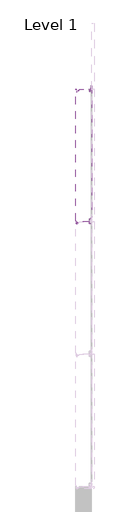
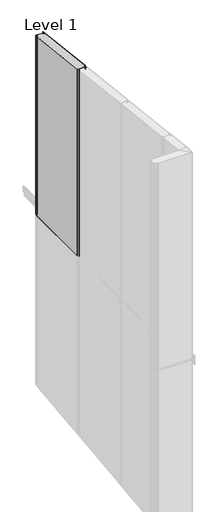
# One storey, part 10 of 12: 1 plate.
"""IFC4 building model written with IfcOpenShell, lengths in millimetres."""

from ifc_helpers import new_model, si_unit, frame, origin, place, context, project, spatial, polyline, circle_curve, ellipse_curve, element, save
from ifc_brep_helpers import plane_surface, cylinder_surface, revolved_surface, advanced_brep

model = new_model("IFC4")

# Units and contexts
model_context = context("Model", 3, world=origin())
ifc_project = project(units=[si_unit("LENGTHUNIT", "METRE", prefix="MILLI")], contexts=[model_context])

# Site, building, storey
site = spatial("IfcSite", under=ifc_project)
building = spatial("IfcBuilding", under=site)
storey = spatial("IfcBuildingStorey", under=building, Name="Level 1", Elevation=0.0)

# Plate
placement = place(None, origin())
element("IfcPlate", 1, ObjectType="TR_C_V_FHL_Panel : 120/RAL9006/RAL9002", at=placement, inside=storey, context=model_context, shape_type="AdvancedBrep", body=[
    advanced_brep(
    [(-3994.9155057, 7494.7075287, 3000.0), (-3995.5197088, 7496.0971008, 3000.0), (-3997.4653075, 7497.9114009, 3000.0), (-3999.3155057, 7497.1069118, 3000.0), (-3999.3155057, 7464.7801836, 3000.0), (-3999.4952944, 7463.7058087, 3000.0), (-4001.8344941, 7456.9122794, 3000.0), (-4011.3488891, 7458.0805002, 3000.0), (-4012.2128026, 7467.9550766, 3000.0), (-4013.9063336, 7469.5069118, 3000.0), (-4014.9155057, 7469.5069118, 3000.0), (-4014.9155057, 7470.3069118, 3000.0), (-4013.9063336, 7470.3069118, 3000.0), (-4011.4158468, 7468.0248012, 3000.0), (-4010.5519334, 7458.1502248, 3000.0), (-4002.5909089, 7457.1727339, 3000.0), (-4000.2517092, 7463.9662632, 3000.0), (-4000.1155057, 7464.7801836, 3000.0), (-4000.1155057, 7497.1069118, 3000.0), (-3996.9197088, 7498.4964839, 3000.0), (-3994.9741101, 7496.6821837, 3000.0), (-3994.1155057, 7494.7075287, 3000.0), (-3994.1155057, 6506.1698321, 3000.0), (-3994.9063173, 6504.2606438, 3000.0), (-3999.7297192, 6499.4372419, 3000.0), (-4000.3155057, 6498.0230283, 3000.0), (-4000.3155057, 6495.2069118, 3000.0), (-4003.0155057, 6492.5069118, 3000.0), (-4008.9155057, 6492.5069118, 3000.0), (-4010.9155057, 6490.5069118, 3000.0), (-4010.9155057, 6471.4069118, 3000.0), (-4009.8237435, 6458.9280134, 3000.0), (-4003.610261, 6458.1650937, 3000.0), (-4003.3006468, 6459.0642787, 3000.0), (-4002.544232, 6458.8038241, 3000.0), (-4002.8538462, 6457.9046392, 3000.0), (-4010.6206993, 6458.8582889, 3000.0), (-4011.7155057, 6471.3719831, 3000.0), (-4011.7155057, 6490.5069118, 3000.0), (-4008.9155057, 6493.3069118, 3000.0), (-4003.0155057, 6493.3069118, 3000.0), (-4001.1155057, 6495.2069118, 3000.0), (-4001.1155057, 6498.0230283, 3000.0), (-4000.2954046, 6500.0029273, 3000.0), (-3995.4720028, 6504.8263292, 3000.0), (-3994.9155057, 6506.1698321, 3000.0), (-3994.1155057, 7494.7075287, 5584.0580678), (-3994.1155057, 6506.1698321, 5699.0043116), (-3994.9155057, 6506.1698321, 5699.0043116), (-3994.9155057, 7494.7075287, 5584.0580678), (-3995.4720028, 6504.8263292, 5699.1605329), (-4000.2954046, 6500.0029273, 5699.7213936), (-4001.1155057, 6498.0230283, 5699.9516144), (-4001.1155057, 6495.2069118, 5700.2790698), (-4003.0155057, 6493.3069118, 5700.5), (-4008.9155057, 6493.3069118, 5700.5), (-4011.7155057, 6490.5069118, 5700.8255814), (-4011.7155057, 6471.3719831, 5703.0505731), (-4010.6206993, 6458.8582889, 5704.5056539), (-4002.8538462, 6457.9046392, 5704.6165434), (-4002.544232, 6458.8038241, 5704.511987), (-4003.3006468, 6459.0642787, 5704.4817016), (-4003.610261, 6458.1650937, 5704.586258), (-4009.8237435, 6458.9280134, 5704.4975464), (-4010.9155057, 6471.4069118, 5703.0465117), (-4010.9155057, 6490.5069118, 5700.8255814), (-4008.9155057, 6492.5069118, 5700.5930233), (-4003.0155057, 6492.5069118, 5700.5930233), (-4000.3155057, 6495.2069118, 5700.2790698), (-4000.3155057, 6498.0230283, 5699.9516144), (-3999.7297192, 6499.4372419, 5699.787171), (-3994.9063173, 6504.2606438, 5699.2263103), (-3994.9741101, 7496.6821837, 5583.8284568), (-3996.9197088, 7498.4964839, 5583.6174917), (-4000.1155057, 7497.1069118, 5583.7790698), (-4000.1155057, 7464.7801836, 5587.5379917), (-4000.2517092, 7463.9662632, 5587.6326336), (-4002.5909089, 7457.1727339, 5588.4225789), (-4010.5519334, 7458.1502248, 5588.3089171), (-4011.4158468, 7468.0248012, 5587.1607106), (-4013.9063336, 7470.3069118, 5586.8953489), (-4014.9155057, 7470.3069118, 5586.8953489), (-4014.9155057, 7469.5069118, 5586.9883721), (-4013.9063336, 7469.5069118, 5586.9883721), (-4012.2128026, 7467.9550766, 5587.1688181), (-4011.3488891, 7458.0805002, 5588.3170246), (-4001.8344941, 7456.9122794, 5588.4528643), (-3999.4952944, 7463.7058087, 5587.662919), (-3999.3155057, 7464.7801836, 5587.5379917), (-3999.3155057, 7497.1069118, 5583.7790698), (-3997.4653075, 7497.9114009, 5583.6855246), (-3995.5197088, 7496.0971008, 5583.8964897)],
    [
        (0, 1, circle_curve(frame((-3996.8155057, 7494.7075287, 3000.0), z_axis=(0.0, 0.0, 1.0), x_axis=(0.0, -1.0, 0.0)), 1.9)),
        (1, 2),
        (2, 3, circle_curve(frame((-3998.2155057, 7497.1069118, 3000.0), z_axis=(0.0, 0.0, 1.0), x_axis=(0.0, -1.0, 0.0)), 1.1)),
        (3, 4),
        (4, 5, circle_curve(frame((-4002.6155057, 7464.7801836, 3000.0), z_axis=(0.0, 0.0, -1.0), x_axis=(0.0, -1.0, 0.0)), 3.3)),
        (5, 6),
        (6, 7, circle_curve(frame((-4006.4675351, 7458.5075634, 3000.0), z_axis=(0.0, 0.0, -1.0), x_axis=(0.0, -1.0, 0.0)), 4.9)),
        (7, 8),
        (8, 9, circle_curve(frame((-4013.9063336, 7467.8069118, 3000.0), z_axis=(0.0, 0.0, 1.0), x_axis=(0.0, -1.0, 0.0)), 1.7)),
        (9, 10),
        (10, 11),
        (11, 12),
        (12, 13, circle_curve(frame((-4013.9063336, 7467.8069118, 3000.0), z_axis=(0.0, 0.0, -1.0), x_axis=(0.0, -1.0, 0.0)), 2.5)),
        (13, 14),
        (14, 15, circle_curve(frame((-4006.4675351, 7458.5075634, 3000.0), z_axis=(0.0, 0.0, 1.0), x_axis=(0.0, -1.0, 0.0)), 4.1)),
        (15, 16),
        (16, 17, circle_curve(frame((-4002.6155057, 7464.7801836, 3000.0), z_axis=(0.0, 0.0, 1.0), x_axis=(0.0, -1.0, 0.0)), 2.5)),
        (17, 18),
        (18, 19, circle_curve(frame((-3998.2155057, 7497.1069118, 3000.0), z_axis=(0.0, 0.0, -1.0), x_axis=(0.0, -1.0, 0.0)), 1.9)),
        (19, 20),
        (20, 21, circle_curve(frame((-3996.8155057, 7494.7075287, 3000.0), z_axis=(0.0, 0.0, -1.0), x_axis=(0.0, -1.0, 0.0)), 2.7)),
        (21, 22),
        (22, 23, circle_curve(frame((-3996.8155057, 6506.1698321, 3000.0), z_axis=(0.0, 0.0, -1.0), x_axis=(0.0, -1.0, 0.0)), 2.7)),
        (23, 24),
        (24, 25, circle_curve(frame((-3998.3155057, 6498.0230283, 3000.0), z_axis=(0.0, 0.0, 1.0), x_axis=(0.0, -1.0, 0.0)), 2.0)),
        (25, 26),
        (26, 27, circle_curve(frame((-4003.0155057, 6495.2069118, 3000.0), z_axis=(0.0, 0.0, -1.0), x_axis=(0.0, -1.0, 0.0)), 2.7)),
        (27, 28),
        (28, 29, circle_curve(frame((-4008.9155057, 6490.5069118, 3000.0), z_axis=(0.0, 0.0, 1.0), x_axis=(0.0, -1.0, 0.0)), 2.0)),
        (29, 30),
        (30, 31),
        (31, 32, circle_curve(frame((-4006.6359205, 6459.2069118, 3000.0), z_axis=(0.0, 0.0, 1.0), x_axis=(0.0, -1.0, 0.0)), 3.2)),
        (32, 33),
        (33, 34),
        (34, 35),
        (35, 36, circle_curve(frame((-4006.6359205, 6459.2069118, 3000.0), z_axis=(0.0, 0.0, -1.0), x_axis=(0.0, -1.0, 0.0)), 4.0)),
        (36, 37),
        (37, 38),
        (38, 39, circle_curve(frame((-4008.9155057, 6490.5069118, 3000.0), z_axis=(0.0, 0.0, -1.0), x_axis=(0.0, -1.0, 0.0)), 2.8)),
        (39, 40),
        (40, 41, circle_curve(frame((-4003.0155057, 6495.2069118, 3000.0), z_axis=(0.0, 0.0, 1.0), x_axis=(0.0, -1.0, 0.0)), 1.9)),
        (41, 42),
        (42, 43, circle_curve(frame((-3998.3155057, 6498.0230283, 3000.0), z_axis=(0.0, 0.0, -1.0), x_axis=(0.0, -1.0, 0.0)), 2.8)),
        (43, 44),
        (44, 45, circle_curve(frame((-3996.8155057, 6506.1698321, 3000.0), z_axis=(0.0, 0.0, 1.0), x_axis=(0.0, -1.0, 0.0)), 1.9)),
        (45, 0),
        (21, 46),
        (46, 47),
        (47, 22),
        (45, 48),
        (48, 49),
        (49, 0),
        (44, 50),
        (50, 48, ellipse_curve(frame((-3996.8155057, 6506.1698321, 5699.0043116), z_axis=(0.0, 0.1155008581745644, 0.9933073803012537), x_axis=(0.0, 0.9933073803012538, -0.11550085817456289)), 1.9128017, 1.9)),
        (43, 51),
        (51, 50),
        (42, 52),
        (52, 51, ellipse_curve(frame((-3998.3155057, 6498.0230283, 5699.9516144), z_axis=(0.0, -0.1155008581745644, -0.9933073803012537), x_axis=(0.0, -0.9933073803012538, 0.11550085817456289)), 2.8188656, 2.8)),
        (41, 53),
        (53, 52),
        (40, 54),
        (54, 53, ellipse_curve(frame((-4003.0155057, 6495.2069118, 5700.2790698), z_axis=(0.0, 0.1155008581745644, 0.9933073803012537), x_axis=(0.0, 0.9933073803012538, -0.11550085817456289)), 1.9128017, 1.9)),
        (39, 55),
        (55, 54),
        (38, 56),
        (56, 55, ellipse_curve(frame((-4008.9155057, 6490.5069118, 5700.8255814), z_axis=(0.0, -0.1155008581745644, -0.9933073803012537), x_axis=(0.0, -0.9933073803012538, 0.11550085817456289)), 2.8188656, 2.8)),
        (37, 57),
        (57, 56),
        (36, 58),
        (58, 57),
        (35, 59),
        (59, 58, ellipse_curve(frame((-4006.6359205, 6459.2069118, 5704.4651163), z_axis=(0.0, -0.1155008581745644, -0.9933073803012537), x_axis=(0.0, -0.9933073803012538, 0.11550085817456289)), 4.0269509, 4.0)),
        (34, 60),
        (60, 59),
        (33, 61),
        (61, 60),
        (32, 62),
        (62, 61),
        (31, 63),
        (63, 62, ellipse_curve(frame((-4006.6359205, 6459.2069118, 5704.4651163), z_axis=(0.0, 0.1155008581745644, 0.9933073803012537), x_axis=(0.0, 0.9933073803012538, -0.11550085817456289)), 3.2215607, 3.2)),
        (30, 64),
        (64, 63),
        (29, 65),
        (65, 64),
        (28, 66),
        (66, 65, ellipse_curve(frame((-4008.9155057, 6490.5069118, 5700.8255814), z_axis=(0.0, 0.1155008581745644, 0.9933073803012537), x_axis=(0.0, 0.9933073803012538, -0.11550085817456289)), 2.0134754, 2.0)),
        (27, 67),
        (67, 66),
        (26, 68),
        (68, 67, ellipse_curve(frame((-4003.0155057, 6495.2069118, 5700.2790698), z_axis=(0.0, -0.1155008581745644, -0.9933073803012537), x_axis=(0.0, -0.9933073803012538, 0.11550085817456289)), 2.7181918, 2.7)),
        (25, 69),
        (69, 68),
        (24, 70),
        (70, 69, ellipse_curve(frame((-3998.3155057, 6498.0230283, 5699.9516144), z_axis=(0.0, 0.1155008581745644, 0.9933073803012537), x_axis=(0.0, 0.9933073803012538, -0.11550085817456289)), 2.0134754, 2.0)),
        (23, 71),
        (71, 70),
        (47, 71, ellipse_curve(frame((-3996.8155057, 6506.1698321, 5699.0043116), z_axis=(0.0, -0.1155008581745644, -0.9933073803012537), x_axis=(0.0, -0.9933073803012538, 0.11550085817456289)), 2.7181918, 2.7)),
        (20, 72),
        (72, 46, ellipse_curve(frame((-3996.8155057, 7494.7075287, 5584.0580678), z_axis=(0.0, -0.1155008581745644, -0.9933073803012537), x_axis=(0.0, -0.9933073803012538, 0.11550085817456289)), 2.7181918, 2.7)),
        (19, 73),
        (73, 72),
        (18, 74),
        (74, 73, ellipse_curve(frame((-3998.2155057, 7497.1069118, 5583.7790698), z_axis=(0.0, -0.1155008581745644, -0.9933073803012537), x_axis=(0.0, -0.9933073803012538, 0.11550085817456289)), 1.9128017, 1.9)),
        (17, 75),
        (75, 74),
        (16, 76),
        (76, 75, ellipse_curve(frame((-4002.6155057, 7464.7801836, 5587.5379917), z_axis=(0.0, 0.1155008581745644, 0.9933073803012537), x_axis=(0.0, 0.9933073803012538, -0.11550085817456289)), 2.5168443, 2.5)),
        (15, 77),
        (77, 76),
        (14, 78),
        (78, 77, ellipse_curve(frame((-4006.4675351, 7458.5075634, 5588.2673661), z_axis=(0.0, 0.1155008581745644, 0.9933073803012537), x_axis=(0.0, 0.9933073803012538, -0.11550085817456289)), 4.1276246, 4.1)),
        (13, 79),
        (79, 78),
        (12, 80),
        (80, 79, ellipse_curve(frame((-4013.9063336, 7467.8069118, 5587.1860465), z_axis=(0.0, -0.1155008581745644, -0.9933073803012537), x_axis=(0.0, -0.9933073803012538, 0.11550085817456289)), 2.5168443, 2.5)),
        (11, 81),
        (81, 80),
        (10, 82),
        (82, 81),
        (9, 83),
        (83, 82),
        (8, 84),
        (84, 83, ellipse_curve(frame((-4013.9063336, 7467.8069118, 5587.1860465), z_axis=(0.0, 0.1155008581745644, 0.9933073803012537), x_axis=(0.0, 0.9933073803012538, -0.11550085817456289)), 1.7114541, 1.7)),
        (7, 85),
        (85, 84),
        (6, 86),
        (86, 85, ellipse_curve(frame((-4006.4675351, 7458.5075634, 5588.2673661), z_axis=(0.0, -0.1155008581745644, -0.9933073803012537), x_axis=(0.0, -0.9933073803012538, 0.11550085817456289)), 4.9330148, 4.9)),
        (5, 87),
        (87, 86),
        (4, 88),
        (88, 87, ellipse_curve(frame((-4002.6155057, 7464.7801836, 5587.5379917), z_axis=(0.0, -0.1155008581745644, -0.9933073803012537), x_axis=(0.0, -0.9933073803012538, 0.11550085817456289)), 3.3222345, 3.3)),
        (3, 89),
        (89, 88),
        (2, 90),
        (90, 89, ellipse_curve(frame((-3998.2155057, 7497.1069118, 5583.7790698), z_axis=(0.0, 0.1155008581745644, 0.9933073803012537), x_axis=(0.0, 0.9933073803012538, -0.11550085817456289)), 1.1074115, 1.1)),
        (1, 91),
        (91, 90),
        (49, 91, ellipse_curve(frame((-3996.8155057, 7494.7075287, 5584.0580678), z_axis=(0.0, 0.1155008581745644, 0.9933073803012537), x_axis=(0.0, 0.9933073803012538, -0.11550085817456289)), 1.9128017, 1.9)),
    ],
    [
        plane_surface(frame((-3994.9155057, 6485.2850853, 3000.0), z_axis=(0.0, 0.0, -1.0), x_axis=(0.0, 1.0, 0.0))),
        plane_surface(frame((-3994.1155057, 6506.1698321, 5980.0), z_axis=(1.0, 0.0, 0.0), x_axis=(0.0, 0.0, -1.0))),
        plane_surface(frame((-3994.9155057, 7494.7075287, 5980.0), z_axis=(-1.0, 0.0, 0.0), x_axis=(0.0, 0.0, -1.0))),
        revolved_surface(polyline([(-3996.8155057, 6504.269832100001, 3000.0), (-3996.8155057, 6504.269832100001, 5699.2252418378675)]), (-3996.8155057, 6506.1698321, 3000.0), (0.0, 0.0, -1.0)),
        plane_surface(frame((-3995.4720028, 6504.8263292, 5980.0), z_axis=(-0.7071067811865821, 0.7071067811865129, 0.0), x_axis=(0.0, 0.0, -1.0))),
        cylinder_surface(frame((-3998.3155057, 6498.0230283, 3000.0), z_axis=(0.0, 0.0, 1.0), x_axis=(0.0, -1.0, 0.0)), 2.8),
        plane_surface(frame((-4001.1155057, 6498.0230283, 5980.0), z_axis=(-1.0, 0.0, 0.0), x_axis=(0.0, 0.0, -1.0))),
        revolved_surface(polyline([(-4003.0155057, 6493.3069118, 3000.0), (-4003.0155057, 6493.3069118, 5700.500000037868)]), (-4003.0155057, 6495.2069118, 3000.0), (0.0, 0.0, -1.0)),
        plane_surface(frame((-4003.0155057, 6493.3069118, 5980.0), z_axis=(0.0, 1.0, 0.0), x_axis=(0.0, 0.0, -1.0))),
        cylinder_surface(frame((-4008.9155057, 6490.5069118, 3000.0), z_axis=(0.0, 0.0, 1.0), x_axis=(0.0, -1.0, 0.0)), 2.8),
        plane_surface(frame((-4011.7155057, 6490.5069118, 5980.0), z_axis=(-1.0, 0.0, 0.0), x_axis=(0.0, 0.0, -1.0))),
        plane_surface(frame((-4011.7155057, 6471.3719831, 5980.0), z_axis=(-0.9961946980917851, -0.08715574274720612, 0.0), x_axis=(0.0, 0.0, -1.0))),
        cylinder_surface(frame((-4006.6359205, 6459.2069118, 3000.0), z_axis=(0.0, 0.0, 1.0), x_axis=(0.0, -1.0, 0.0)), 4.0),
        plane_surface(frame((-4002.8538462, 6457.9046392, 5980.0), z_axis=(0.9455185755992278, -0.32556815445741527, 0.0), x_axis=(0.0, 0.0, -1.0))),
        plane_surface(frame((-4002.544232, 6458.8038241, 5980.0), z_axis=(0.325568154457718, 0.9455185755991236, 0.0), x_axis=(0.0, 0.0, -1.0))),
        plane_surface(frame((-4003.3006468, 6459.0642787, 5980.0), z_axis=(-0.9455185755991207, 0.32556815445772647, 0.0), x_axis=(0.0, 0.0, -1.0))),
        revolved_surface(polyline([(-4006.6359205, 6456.0069118, 3000.0), (-4006.6359205, 6456.0069118, 5704.837209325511)]), (-4006.6359205, 6459.2069118, 3000.0), (0.0, 0.0, -1.0)),
        plane_surface(frame((-4009.8237435, 6458.9280134, 5980.0), z_axis=(0.9961946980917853, 0.08715574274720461, 0.0), x_axis=(0.0, 0.0, -1.0))),
        plane_surface(frame((-4010.9155057, 6471.4069118, 5980.0), z_axis=(1.0, 0.0, 0.0), x_axis=(0.0, 0.0, -1.0))),
        revolved_surface(polyline([(-4008.9155057, 6488.5069118, 3000.0), (-4008.9155057, 6488.5069118, 5701.058139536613)]), (-4008.9155057, 6490.5069118, 3000.0), (0.0, 0.0, -1.0)),
        plane_surface(frame((-4008.9155057, 6492.5069118, 5980.0), z_axis=(0.0, -1.0, 0.0), x_axis=(0.0, 0.0, -1.0))),
        cylinder_surface(frame((-4003.0155057, 6495.2069118, 3000.0), z_axis=(0.0, 0.0, 1.0), x_axis=(0.0, -1.0, 0.0)), 2.7),
        plane_surface(frame((-4000.3155057, 6495.2069118, 5980.0), z_axis=(1.0, 0.0, 0.0), x_axis=(0.0, 0.0, -1.0))),
        revolved_surface(polyline([(-3998.3155057, 6496.0230283, 3000.0), (-3998.3155057, 6496.0230283, 5700.184172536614)]), (-3998.3155057, 6498.0230283, 3000.0), (0.0, 0.0, -1.0)),
        plane_surface(frame((-3999.7297192, 6499.4372419, 5980.0), z_axis=(0.7071067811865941, -0.707106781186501, 0.0), x_axis=(0.0, 0.0, -1.0))),
        cylinder_surface(frame((-3996.8155057, 6506.1698321, 3000.0), z_axis=(0.0, 0.0, 1.0), x_axis=(0.0, -1.0, 0.0)), 2.7),
        cylinder_surface(frame((-3996.8155057, 7494.7075287, 3000.0), z_axis=(0.0, 0.0, 1.0), x_axis=(0.0, -1.0, 0.0)), 2.7),
        plane_surface(frame((-3994.9741101, 7496.6821837, 5980.0), z_axis=(0.6819983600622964, 0.7313537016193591, 0.0), x_axis=(0.0, 0.0, -1.0))),
        cylinder_surface(frame((-3998.2155057, 7497.1069118, 3000.0), z_axis=(0.0, 0.0, 1.0), x_axis=(0.0, -1.0, 0.0)), 1.9),
        plane_surface(frame((-4000.1155057, 7497.1069118, 5980.0), z_axis=(-1.0, 0.0, 0.0), x_axis=(0.0, 0.0, -1.0))),
        revolved_surface(polyline([(-4002.6155057, 7462.2801836, 3000.0), (-4002.6155057, 7462.2801836, 5587.828689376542)]), (-4002.6155057, 7464.7801836, 3000.0), (0.0, 0.0, -1.0)),
        plane_surface(frame((-4000.2517092, 7463.9662632, 5980.0), z_axis=(-0.9455185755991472, 0.3255681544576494, 0.0), x_axis=(0.0, 0.0, -1.0))),
        revolved_surface(polyline([(-4006.4675351, 7454.4075634, 3000.0), (-4006.4675351, 7454.4075634, 5588.744110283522)]), (-4006.4675351, 7458.5075634, 3000.0), (0.0, 0.0, -1.0)),
        plane_surface(frame((-4010.5519334, 7458.1502248, 5980.0), z_axis=(0.9961946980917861, 0.08715574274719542, 0.0), x_axis=(0.0, 0.0, -1.0))),
        cylinder_surface(frame((-4013.9063336, 7467.8069118, 3000.0), z_axis=(0.0, 0.0, 1.0), x_axis=(0.0, -1.0, 0.0)), 2.5),
        plane_surface(frame((-4013.9063336, 7470.3069118, 5980.0), z_axis=(0.0, 1.0, 0.0), x_axis=(0.0, 0.0, -1.0))),
        plane_surface(frame((-4014.9155057, 7470.3069118, 5980.0), z_axis=(-1.0, 0.0, 0.0), x_axis=(0.0, 0.0, -1.0))),
        plane_surface(frame((-4014.9155057, 7469.5069118, 5980.0), z_axis=(0.0, -1.0, 0.0), x_axis=(0.0, 0.0, -1.0))),
        revolved_surface(polyline([(-4013.9063336, 7466.1069118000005, 3000.0), (-4013.9063336, 7466.1069118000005, 5587.383720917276)]), (-4013.9063336, 7467.8069118, 3000.0), (0.0, 0.0, -1.0)),
        plane_surface(frame((-4012.2128026, 7467.9550766, 5980.0), z_axis=(-0.9961946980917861, -0.08715574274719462, 0.0), x_axis=(0.0, 0.0, -1.0))),
        cylinder_surface(frame((-4006.4675351, 7458.5075634, 3000.0), z_axis=(0.0, 0.0, 1.0), x_axis=(0.0, -1.0, 0.0)), 4.9),
        plane_surface(frame((-4001.8344941, 7456.9122794, 5980.0), z_axis=(0.9455185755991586, -0.3255681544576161, 0.0), x_axis=(0.0, 0.0, -1.0))),
        cylinder_surface(frame((-4002.6155057, 7464.7801836, 3000.0), z_axis=(0.0, 0.0, 1.0), x_axis=(0.0, -1.0, 0.0)), 3.3),
        plane_surface(frame((-3999.3155057, 7464.7801836, 5980.0), z_axis=(1.0, 0.0, 0.0), x_axis=(0.0, 0.0, -1.0))),
        revolved_surface(polyline([(-3998.2155057, 7496.006911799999, 3000.0), (-3998.2155057, 7496.006911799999, 5583.906976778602)]), (-3998.2155057, 7497.1069118, 3000.0), (0.0, 0.0, -1.0)),
        plane_surface(frame((-3997.4653075, 7497.9114009, 5980.0), z_axis=(-0.6819983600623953, -0.7313537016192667, 0.0), x_axis=(0.0, 0.0, -1.0))),
        revolved_surface(polyline([(-3996.8155057, 7492.8075287, 3000.0), (-3996.8155057, 7492.8075287, 5584.2789980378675)]), (-3996.8155057, 7494.7075287, 3000.0), (0.0, 0.0, -1.0)),
        plane_surface(frame((-3994.1155057, 6239.6069121, 5730.0), z_axis=(0.0, 0.1155008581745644, 0.9933073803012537), x_axis=(0.0, -0.9933073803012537, 0.1155008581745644))),
    ],
    [
        (0, [[1, 2, 3, 4, 5, 6, 7, 8, 9, 10, 11, 12, 13, 14, 15, 16, 17, 18, 19, 20, 21, 22, 23, 24, 25, 26, 27, 28, 29, 30, 31, 32, 33, 34, 35, 36, 37, 38, 39, 40, 41, 42, 43, 44, 45, 46]]),
        (1, [[-22, 47, 48, 49]]),
        (2, [[-46, 50, 51, 52]]),
        (3, [[-45, 53, 54, -50]]),
        (4, [[-44, 55, 56, -53]]),
        (5, [[-43, 57, 58, -55]]),
        (6, [[-42, 59, 60, -57]]),
        (7, [[-41, 61, 62, -59]]),
        (8, [[-40, 63, 64, -61]]),
        (9, [[-39, 65, 66, -63]]),
        (10, [[-38, 67, 68, -65]]),
        (11, [[-37, 69, 70, -67]]),
        (12, [[-36, 71, 72, -69]]),
        (13, [[-35, 73, 74, -71]]),
        (14, [[-34, 75, 76, -73]]),
        (15, [[-33, 77, 78, -75]]),
        (16, [[-32, 79, 80, -77]]),
        (17, [[-31, 81, 82, -79]]),
        (18, [[-30, 83, 84, -81]]),
        (19, [[-29, 85, 86, -83]]),
        (20, [[-28, 87, 88, -85]]),
        (21, [[-27, 89, 90, -87]]),
        (22, [[-26, 91, 92, -89]]),
        (23, [[-25, 93, 94, -91]]),
        (24, [[-24, 95, 96, -93]]),
        (25, [[-23, -49, 97, -95]]),
        (26, [[-21, 98, 99, -47]]),
        (27, [[-20, 100, 101, -98]]),
        (28, [[-19, 102, 103, -100]]),
        (29, [[-18, 104, 105, -102]]),
        (30, [[-17, 106, 107, -104]]),
        (31, [[-16, 108, 109, -106]]),
        (32, [[-15, 110, 111, -108]]),
        (33, [[-14, 112, 113, -110]]),
        (34, [[-13, 114, 115, -112]]),
        (35, [[-12, 116, 117, -114]]),
        (36, [[-11, 118, 119, -116]]),
        (37, [[-10, 120, 121, -118]]),
        (38, [[-9, 122, 123, -120]]),
        (39, [[-8, 124, 125, -122]]),
        (40, [[-7, 126, 127, -124]]),
        (41, [[-6, 128, 129, -126]]),
        (42, [[-5, 130, 131, -128]]),
        (43, [[-4, 132, 133, -130]]),
        (44, [[-3, 134, 135, -132]]),
        (45, [[-2, 136, 137, -134]]),
        (46, [[-1, -52, 138, -136]]),
        (47, [[-48, -99, -101, -103, -105, -107, -109, -111, -113, -115, -117, -119, -121, -123, -125, -127, -129, -131, -133, -135, -137, -138, -51, -54, -56, -58, -60, -62, -64, -66, -68, -70, -72, -74, -76, -78, -80, -82, -84, -86, -88, -90, -92, -94, -96, -97]]),
    ],
),
    advanced_brep(
    [(-4113.3155057, 7449.7069118, 3000.0), (-4104.6655057, 7449.7069118, 3000.0), (-4100.4800727, 7453.2189071, 3000.0), (-4099.4132474, 7459.2691739, 3000.0), (-4096.5080645, 7461.7069118, 3000.0), (-4088.9755057, 7461.7069118, 3000.0), (-4088.9755057, 7469.6069118, 3000.0), (-4014.9155057, 7469.6069118, 3000.0), (-4013.9063336, 7469.5069118, 3000.0), (-4012.2128026, 7467.9550766, 3000.0), (-4011.3488891, 7458.0805002, 3000.0), (-4006.4675351, 7453.6075634, 3000.0), (-3994.9155057, 7453.6075634, 3000.0), (-3994.9155057, 6506.1698321, 3000.0), (-3995.4720028, 6504.8263292, 3000.0), (-4000.2954046, 6500.0029273, 3000.0), (-4001.1155057, 6498.0230283, 3000.0), (-4001.1155057, 6495.2069118, 3000.0), (-4003.0155057, 6493.3069118, 3000.0), (-4008.9155057, 6493.3069118, 3000.0), (-4011.7155057, 6490.5069118, 3000.0), (-4011.7155057, 6471.3719831, 3000.0), (-4011.5610819, 6469.6069118, 3000.0), (-4107.3155057, 6469.6069118, 3000.0), (-4107.3155057, 6471.5069118, 3000.0), (-4108.2820533, 6473.8403642, 3000.0), (-4112.6711406, 6478.2294515, 3000.0), (-4113.3155057, 6479.7850864, 3000.0), (-4113.3155057, 6479.7850864, 5702.0723053), (-4113.3155057, 7449.7069118, 5589.2906977), (-4112.6711406, 6478.2294515, 5702.2531931), (-4108.2820533, 6473.8403642, 5702.7635521), (-4107.3155057, 6471.5069118, 5703.0348838), (-4107.3155057, 6469.6069118, 5703.255814), (-4011.5610819, 6469.6069118, 5703.255814), (-4011.7155057, 6471.3719831, 5703.0505731), (-4011.7155057, 6490.5069118, 5700.8255814), (-4008.9155057, 6493.3069118, 5700.5), (-4003.0155057, 6493.3069118, 5700.5), (-4001.1155057, 6495.2069118, 5700.2790698), (-4001.1155057, 6498.0230283, 5699.9516144), (-4000.2954046, 6500.0029273, 5699.7213936), (-3995.4720028, 6504.8263292, 5699.1605329), (-3994.9155057, 6506.1698321, 5699.0043116), (-3994.9155057, 7453.6075634, 5588.8371336), (-4006.4675351, 7453.6075634, 5588.8371336), (-4011.3488891, 7458.0805002, 5588.3170246), (-4012.2128026, 7467.9550766, 5587.1688181), (-4013.9063336, 7469.5069118, 5586.9883721), (-4014.9155057, 7469.6069118, 5586.9767442), (-4088.9755057, 7469.6069118, 5586.9767442), (-4088.9755057, 7461.7069118, 5587.8953489), (-4096.5080645, 7461.7069118, 5587.8953489), (-4099.4132474, 7459.2691739, 5588.1788068), (-4100.4800727, 7453.2189071, 5588.8823262), (-4104.6655057, 7449.7069118, 5589.2906977)],
    [
        (0, 1),
        (1, 2, circle_curve(frame((-4104.6655057, 7453.9569118, 3000.0), z_axis=(0.0, 0.0, 1.0), x_axis=(0.0, -1.0, 0.0)), 4.25)),
        (2, 3),
        (3, 4, circle_curve(frame((-4096.5080645, 7458.7569118, 3000.0), z_axis=(0.0, 0.0, -1.0), x_axis=(0.0, -1.0, 0.0)), 2.95)),
        (4, 5),
        (5, 6),
        (6, 7),
        (7, 8),
        (8, 9, circle_curve(frame((-4013.9063336, 7467.8069118, 3000.0), z_axis=(0.0, 0.0, -1.0), x_axis=(0.0, -1.0, 0.0)), 1.7)),
        (9, 10),
        (10, 11, circle_curve(frame((-4006.4675351, 7458.5075634, 3000.0), z_axis=(0.0, 0.0, 1.0), x_axis=(0.0, -1.0, 0.0)), 4.9)),
        (11, 12),
        (12, 13),
        (13, 14, circle_curve(frame((-3996.8155057, 6506.1698321, 3000.0), z_axis=(0.0, 0.0, -1.0), x_axis=(0.0, -1.0, 0.0)), 1.9)),
        (14, 15),
        (15, 16, circle_curve(frame((-3998.3155057, 6498.0230283, 3000.0), z_axis=(0.0, 0.0, 1.0), x_axis=(0.0, -1.0, 0.0)), 2.8)),
        (16, 17),
        (17, 18, circle_curve(frame((-4003.0155057, 6495.2069118, 3000.0), z_axis=(0.0, 0.0, -1.0), x_axis=(0.0, -1.0, 0.0)), 1.9)),
        (18, 19),
        (19, 20, circle_curve(frame((-4008.9155057, 6490.5069118, 3000.0), z_axis=(0.0, 0.0, 1.0), x_axis=(0.0, -1.0, 0.0)), 2.8)),
        (20, 21),
        (21, 22),
        (22, 23),
        (23, 24),
        (24, 25, circle_curve(frame((-4110.6155057, 6471.5069118, 3000.0), z_axis=(0.0, 0.0, 1.0), x_axis=(0.0, -1.0, 0.0)), 3.3)),
        (25, 26),
        (26, 27, circle_curve(frame((-4111.1155057, 6479.7850864, 3000.0), z_axis=(0.0, 0.0, -1.0), x_axis=(0.0, -1.0, 0.0)), 2.2)),
        (27, 0),
        (27, 28),
        (28, 29),
        (29, 0),
        (26, 30),
        (30, 28, ellipse_curve(frame((-4111.1155057, 6479.7850864, 5702.0723053), z_axis=(0.0, -0.1155008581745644, -0.9933073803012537), x_axis=(0.0, -0.9933073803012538, 0.11550085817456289)), 2.214823, 2.2)),
        (25, 31),
        (31, 30),
        (24, 32),
        (32, 31, ellipse_curve(frame((-4110.6155057, 6471.5069118, 5703.0348838), z_axis=(0.0, 0.1155008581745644, 0.9933073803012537), x_axis=(0.0, 0.9933073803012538, -0.11550085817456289)), 3.3222345, 3.3)),
        (23, 33),
        (33, 32),
        (22, 34),
        (34, 33),
        (21, 35),
        (35, 34),
        (20, 36),
        (36, 35),
        (19, 37),
        (37, 36, ellipse_curve(frame((-4008.9155057, 6490.5069118, 5700.8255814), z_axis=(0.0, 0.1155008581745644, 0.9933073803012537), x_axis=(0.0, 0.9933073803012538, -0.11550085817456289)), 2.8188656, 2.8)),
        (18, 38),
        (38, 37),
        (17, 39),
        (39, 38, ellipse_curve(frame((-4003.0155057, 6495.2069118, 5700.2790698), z_axis=(0.0, -0.1155008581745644, -0.9933073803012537), x_axis=(0.0, -0.9933073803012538, 0.11550085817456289)), 1.9128017, 1.9)),
        (16, 40),
        (40, 39),
        (15, 41),
        (41, 40, ellipse_curve(frame((-3998.3155057, 6498.0230283, 5699.9516144), z_axis=(0.0, 0.1155008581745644, 0.9933073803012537), x_axis=(0.0, 0.9933073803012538, -0.11550085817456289)), 2.8188656, 2.8)),
        (14, 42),
        (42, 41),
        (13, 43),
        (43, 42, ellipse_curve(frame((-3996.8155057, 6506.1698321, 5699.0043116), z_axis=(0.0, -0.1155008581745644, -0.9933073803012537), x_axis=(0.0, -0.9933073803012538, 0.11550085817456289)), 1.9128017, 1.9)),
        (12, 44),
        (44, 43),
        (11, 45),
        (45, 44),
        (10, 46),
        (46, 45, ellipse_curve(frame((-4006.4675351, 7458.5075634, 5588.2673661), z_axis=(0.0, 0.1155008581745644, 0.9933073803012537), x_axis=(0.0, 0.9933073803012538, -0.11550085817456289)), 4.9330148, 4.9)),
        (9, 47),
        (47, 46),
        (8, 48),
        (48, 47, ellipse_curve(frame((-4013.9063336, 7467.8069118, 5587.1860465), z_axis=(0.0, -0.1155008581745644, -0.9933073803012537), x_axis=(0.0, -0.9933073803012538, 0.11550085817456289)), 1.7114541, 1.7)),
        (7, 49),
        (49, 48),
        (6, 50),
        (50, 49),
        (5, 51),
        (51, 50),
        (4, 52),
        (52, 51),
        (3, 53),
        (53, 52, ellipse_curve(frame((-4096.5080645, 7458.7569118, 5588.2383721), z_axis=(0.0, -0.1155008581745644, -0.9933073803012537), x_axis=(0.0, -0.9933073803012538, 0.11550085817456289)), 2.9698763, 2.95)),
        (2, 54),
        (54, 53),
        (1, 55),
        (55, 54, ellipse_curve(frame((-4104.6655057, 7453.9569118, 5588.7965117), z_axis=(0.0, 0.1155008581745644, 0.9933073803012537), x_axis=(0.0, 0.9933073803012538, -0.11550085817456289)), 4.2786353, 4.25)),
        (29, 55),
    ],
    [
        plane_surface(frame((-4113.3155057, 6479.7850864, 3000.0), z_axis=(0.0, 0.0, -1.0), x_axis=(0.0, 1.0, 0.0))),
        plane_surface(frame((-4113.3155057, 7449.7069118, 5980.0), z_axis=(-1.0, 0.0, 0.0), x_axis=(0.0, 0.0, -1.0))),
        cylinder_surface(frame((-4111.1155057, 6479.7850864, 3000.0), z_axis=(0.0, 0.0, 1.0), x_axis=(0.0, -1.0, 0.0)), 2.2),
        plane_surface(frame((-4112.6711406, 6478.2294515, 5980.0), z_axis=(-0.7071067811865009, -0.7071067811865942, 0.0), x_axis=(0.0, 0.0, -1.0))),
        revolved_surface(polyline([(-4110.6155057, 6468.2069118, 3000.0), (-4110.6155057, 6468.2069118, 5703.418604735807)]), (-4110.6155057, 6471.5069118, 3000.0), (0.0, 0.0, -1.0)),
        plane_surface(frame((-4107.3155057, 6471.5069118, 5980.0), z_axis=(-1.0, 0.0, 0.0), x_axis=(0.0, 0.0, -1.0))),
        plane_surface(frame((-4107.3155057, 6469.6069118, 5980.0), z_axis=(0.0, -1.0, 0.0), x_axis=(0.0, 0.0, -1.0))),
        plane_surface(frame((-4011.5610819, 6469.6069118, 5980.0), z_axis=(0.9961946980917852, 0.08715574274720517, 0.0), x_axis=(0.0, 0.0, -1.0))),
        plane_surface(frame((-4011.7155057, 6471.3719831, 5980.0), z_axis=(1.0, 0.0, 0.0), x_axis=(0.0, 0.0, -1.0))),
        revolved_surface(polyline([(-4008.9155057, 6487.7069118, 3000.0), (-4008.9155057, 6487.7069118, 5701.151162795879)]), (-4008.9155057, 6490.5069118, 3000.0), (0.0, 0.0, -1.0)),
        plane_surface(frame((-4008.9155057, 6493.3069118, 5980.0), z_axis=(0.0, -1.0, 0.0), x_axis=(0.0, 0.0, -1.0))),
        cylinder_surface(frame((-4003.0155057, 6495.2069118, 3000.0), z_axis=(0.0, 0.0, 1.0), x_axis=(0.0, -1.0, 0.0)), 1.9),
        plane_surface(frame((-4001.1155057, 6495.2069118, 5980.0), z_axis=(1.0, 0.0, 0.0), x_axis=(0.0, 0.0, -1.0))),
        revolved_surface(polyline([(-3998.3155057, 6495.2230283, 3000.0), (-3998.3155057, 6495.2230283, 5700.2771957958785)]), (-3998.3155057, 6498.0230283, 3000.0), (0.0, 0.0, -1.0)),
        plane_surface(frame((-4000.2954046, 6500.0029273, 5980.0), z_axis=(0.707106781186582, -0.7071067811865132, 0.0), x_axis=(0.0, 0.0, -1.0))),
        cylinder_surface(frame((-3996.8155057, 6506.1698321, 3000.0), z_axis=(0.0, 0.0, 1.0), x_axis=(0.0, -1.0, 0.0)), 1.9),
        plane_surface(frame((-3994.9155057, 6506.1698321, 5980.0), z_axis=(1.0, 0.0, 0.0), x_axis=(0.0, 0.0, -1.0))),
        plane_surface(frame((-3994.9155057, 7453.6075634, 5980.0), z_axis=(0.0, 1.0, 0.0), x_axis=(0.0, 0.0, -1.0))),
        revolved_surface(polyline([(-4006.4675351, 7453.607563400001, 3000.0), (-4006.4675351, 7453.607563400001, 5588.8371336)]), (-4006.4675351, 7458.5075634, 3000.0), (0.0, 0.0, -1.0)),
        plane_surface(frame((-4011.3488891, 7458.0805002, 5980.0), z_axis=(0.9961946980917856, 0.08715574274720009, 0.0), x_axis=(0.0, 0.0, -1.0))),
        cylinder_surface(frame((-4013.9063336, 7467.8069118, 3000.0), z_axis=(0.0, 0.0, 1.0), x_axis=(0.0, -1.0, 0.0)), 1.7),
        plane_surface(frame((-4013.9063336, 7469.5069118, 5980.0), z_axis=(0.0986081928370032, 0.9951263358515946, 0.0), x_axis=(0.0, 0.0, -1.0))),
        plane_surface(frame((-4014.9155057, 7469.6069118, 5980.0), z_axis=(0.0, 1.0, 0.0), x_axis=(0.0, 0.0, -1.0))),
        plane_surface(frame((-4088.9755057, 7469.6069118, 5980.0), z_axis=(-1.0, 0.0, 0.0), x_axis=(0.0, 0.0, -1.0))),
        plane_surface(frame((-4088.9755057, 7461.7069118, 5980.0), z_axis=(0.0, 1.0, 0.0), x_axis=(0.0, 0.0, -1.0))),
        cylinder_surface(frame((-4096.5080645, 7458.7569118, 3000.0), z_axis=(0.0, 0.0, 1.0), x_axis=(0.0, -1.0, 0.0)), 2.95),
        plane_surface(frame((-4099.4132474, 7459.2691739, 5980.0), z_axis=(-0.984807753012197, 0.1736481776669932, 0.0), x_axis=(0.0, 0.0, -1.0))),
        revolved_surface(polyline([(-4104.6655057, 7449.7069118, 3000.0), (-4104.6655057, 7449.7069118, 5589.2906977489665)]), (-4104.6655057, 7453.9569118, 3000.0), (0.0, 0.0, -1.0)),
        plane_surface(frame((-4104.6655057, 7449.7069118, 5980.0), z_axis=(0.0, 1.0, 0.0), x_axis=(0.0, 0.0, -1.0))),
        plane_surface(frame((-3994.1155057, 6239.6069121, 5730.0), z_axis=(0.0, 0.1155008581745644, 0.9933073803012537), x_axis=(0.0, -0.9933073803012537, 0.1155008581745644))),
    ],
    [
        (0, [[1, 2, 3, 4, 5, 6, 7, 8, 9, 10, 11, 12, 13, 14, 15, 16, 17, 18, 19, 20, 21, 22, 23, 24, 25, 26, 27, 28]]),
        (1, [[-28, 29, 30, 31]]),
        (2, [[-27, 32, 33, -29]]),
        (3, [[-26, 34, 35, -32]]),
        (4, [[-25, 36, 37, -34]]),
        (5, [[-24, 38, 39, -36]]),
        (6, [[-23, 40, 41, -38]]),
        (7, [[-22, 42, 43, -40]]),
        (8, [[-21, 44, 45, -42]]),
        (9, [[-20, 46, 47, -44]]),
        (10, [[-19, 48, 49, -46]]),
        (11, [[-18, 50, 51, -48]]),
        (12, [[-17, 52, 53, -50]]),
        (13, [[-16, 54, 55, -52]]),
        (14, [[-15, 56, 57, -54]]),
        (15, [[-14, 58, 59, -56]]),
        (16, [[-13, 60, 61, -58]]),
        (17, [[-12, 62, 63, -60]]),
        (18, [[-11, 64, 65, -62]]),
        (19, [[-10, 66, 67, -64]]),
        (20, [[-9, 68, 69, -66]]),
        (21, [[-8, 70, 71, -68]]),
        (22, [[-7, 72, 73, -70]]),
        (23, [[-6, 74, 75, -72]]),
        (24, [[-5, 76, 77, -74]]),
        (25, [[-4, 78, 79, -76]]),
        (26, [[-3, 80, 81, -78]]),
        (27, [[-2, 82, 83, -80]]),
        (28, [[-1, -31, 84, -82]]),
        (29, [[-30, -33, -35, -37, -39, -41, -43, -45, -47, -49, -51, -53, -55, -57, -59, -61, -63, -65, -67, -69, -71, -73, -75, -77, -79, -81, -83, -84]]),
    ],
),
    advanced_brep(
    [(-4093.1155057, 7462.5069118, 3000.0), (-4093.1155057, 7461.7069118, 3000.0), (-4096.5080645, 7461.7069118, 3000.0), (-4099.4132474, 7459.2691739, 3000.0), (-4100.4800727, 7453.2189071, 3000.0), (-4108.9155057, 7453.9569118, 3000.0), (-4108.9155057, 7471.5569118, 3000.0), (-4110.8786785, 7472.3700846, 3000.0), (-4112.7443639, 7470.5043992, 3000.0), (-4113.3155057, 7469.125541, 3000.0), (-4113.3155057, 6479.7850864, 3000.0), (-4112.6711406, 6478.2294515, 3000.0), (-4108.2820533, 6473.8403642, 3000.0), (-4107.3155057, 6471.5069118, 3000.0), (-4107.3155057, 6456.7569118, 3000.0), (-4102.4527267, 6456.3314738, 3000.0), (-4101.7094137, 6460.547011, 3000.0), (-4097.2285384, 6464.3069118, 3000.0), (-4093.1155057, 6464.3069118, 3000.0), (-4093.1155057, 6463.5069118, 3000.0), (-4097.2285384, 6463.5069118, 3000.0), (-4100.9215675, 6460.4080925, 3000.0), (-4101.6648805, 6456.1925552, 3000.0), (-4108.1155057, 6456.7569118, 3000.0), (-4108.1155057, 6471.5069118, 3000.0), (-4108.8477387, 6473.2746788, 3000.0), (-4113.236826, 6477.6637661, 3000.0), (-4114.1155057, 6479.7850864, 3000.0), (-4114.1155057, 7469.125541, 3000.0), (-4113.3100493, 7471.0700846, 3000.0), (-4111.4443639, 7472.93577, 3000.0), (-4108.1155057, 7471.5569118, 3000.0), (-4108.1155057, 7453.9569118, 3000.0), (-4101.2679189, 7453.3578256, 3000.0), (-4100.2010936, 7459.4080925, 3000.0), (-4096.5080645, 7462.5069118, 3000.0), (-4096.5080645, 7462.5069118, 5587.8023256), (-4093.1155057, 7462.5069118, 5587.8023256), (-4100.2010936, 7459.4080925, 5588.1626534), (-4101.2679189, 7453.3578256, 5588.8661729), (-4108.1155057, 7453.9569118, 5588.7965117), (-4108.1155057, 7471.5569118, 5586.75), (-4111.4443639, 7472.93577, 5586.5896677), (-4113.3100493, 7471.0700846, 5586.8066078), (-4114.1155057, 7469.125541, 5587.0327176), (-4114.1155057, 6479.7850864, 5702.0723053), (-4113.236826, 6477.6637661, 5702.3189705), (-4108.8477387, 6473.2746788, 5702.8293295), (-4108.1155057, 6471.5069118, 5703.0348838), (-4108.1155057, 6456.7569118, 5704.75), (-4101.6648805, 6456.1925552, 5704.8156229), (-4100.9215675, 6460.4080925, 5704.3254441), (-4097.2285384, 6463.5069118, 5703.9651163), (-4093.1155057, 6463.5069118, 5703.9651163), (-4093.1155057, 6464.3069118, 5703.8720931), (-4097.2285384, 6464.3069118, 5703.8720931), (-4101.7094137, 6460.547011, 5704.3092908), (-4102.4527267, 6456.3314738, 5704.7994696), (-4107.3155057, 6456.7569118, 5704.75), (-4107.3155057, 6471.5069118, 5703.0348838), (-4108.2820533, 6473.8403642, 5702.7635521), (-4112.6711406, 6478.2294515, 5702.2531931), (-4113.3155057, 6479.7850864, 5702.0723053), (-4113.3155057, 7469.125541, 5587.0327176), (-4112.7443639, 7470.5043992, 5586.8723852), (-4110.8786785, 7472.3700846, 5586.6554451), (-4108.9155057, 7471.5569118, 5586.75), (-4108.9155057, 7453.9569118, 5588.7965117), (-4100.4800727, 7453.2189071, 5588.8823262), (-4099.4132474, 7459.2691739, 5588.1788068), (-4096.5080645, 7461.7069118, 5587.8953489), (-4093.1155057, 7461.7069118, 5587.8953489)],
    [
        (0, 1),
        (1, 2),
        (2, 3, circle_curve(frame((-4096.5080645, 7458.7569118, 3000.0), z_axis=(0.0, 0.0, 1.0), x_axis=(0.0, -1.0, 0.0)), 2.95)),
        (3, 4),
        (4, 5, circle_curve(frame((-4104.6655057, 7453.9569118, 3000.0), z_axis=(0.0, 0.0, -1.0), x_axis=(0.0, -1.0, 0.0)), 4.25)),
        (5, 6),
        (6, 7, circle_curve(frame((-4110.0655057, 7471.5569118, 3000.0), z_axis=(0.0, 0.0, 1.0), x_axis=(0.0, -1.0, 0.0)), 1.15)),
        (7, 8),
        (8, 9, circle_curve(frame((-4111.3655057, 7469.125541, 3000.0), z_axis=(0.0, 0.0, 1.0), x_axis=(0.0, -1.0, 0.0)), 1.95)),
        (9, 10),
        (10, 11, circle_curve(frame((-4111.1155057, 6479.7850864, 3000.0), z_axis=(0.0, 0.0, 1.0), x_axis=(0.0, -1.0, 0.0)), 2.2)),
        (11, 12),
        (12, 13, circle_curve(frame((-4110.6155057, 6471.5069118, 3000.0), z_axis=(0.0, 0.0, -1.0), x_axis=(0.0, -1.0, 0.0)), 3.3)),
        (13, 14),
        (14, 15, circle_curve(frame((-4104.8655057, 6456.7569118, 3000.0), z_axis=(0.0, 0.0, 1.0), x_axis=(0.0, -1.0, 0.0)), 2.45)),
        (15, 16),
        (16, 17, circle_curve(frame((-4097.2285384, 6459.7569118, 3000.0), z_axis=(0.0, 0.0, -1.0), x_axis=(0.0, -1.0, 0.0)), 4.55)),
        (17, 18),
        (18, 19),
        (19, 20),
        (20, 21, circle_curve(frame((-4097.2285384, 6459.7569118, 3000.0), z_axis=(0.0, 0.0, 1.0), x_axis=(0.0, -1.0, 0.0)), 3.75)),
        (21, 22),
        (22, 23, circle_curve(frame((-4104.8655057, 6456.7569118, 3000.0), z_axis=(0.0, 0.0, -1.0), x_axis=(0.0, -1.0, 0.0)), 3.25)),
        (23, 24),
        (24, 25, circle_curve(frame((-4110.6155057, 6471.5069118, 3000.0), z_axis=(0.0, 0.0, 1.0), x_axis=(0.0, -1.0, 0.0)), 2.5)),
        (25, 26),
        (26, 27, circle_curve(frame((-4111.1155057, 6479.7850864, 3000.0), z_axis=(0.0, 0.0, -1.0), x_axis=(0.0, -1.0, 0.0)), 3.0)),
        (27, 28),
        (28, 29, circle_curve(frame((-4111.3655057, 7469.125541, 3000.0), z_axis=(0.0, 0.0, -1.0), x_axis=(0.0, -1.0, 0.0)), 2.75)),
        (29, 30),
        (30, 31, circle_curve(frame((-4110.0655057, 7471.5569118, 3000.0), z_axis=(0.0, 0.0, -1.0), x_axis=(0.0, -1.0, 0.0)), 1.95)),
        (31, 32),
        (32, 33, circle_curve(frame((-4104.6655057, 7453.9569118, 3000.0), z_axis=(0.0, 0.0, 1.0), x_axis=(0.0, -1.0, 0.0)), 3.45)),
        (33, 34),
        (34, 35, circle_curve(frame((-4096.5080645, 7458.7569118, 3000.0), z_axis=(0.0, 0.0, -1.0), x_axis=(0.0, -1.0, 0.0)), 3.75)),
        (35, 0),
        (35, 36),
        (36, 37),
        (37, 0),
        (34, 38),
        (38, 36, ellipse_curve(frame((-4096.5080645, 7458.7569118, 5588.2383721), z_axis=(0.0, -0.1155008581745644, -0.9933073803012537), x_axis=(0.0, -0.9933073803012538, 0.11550085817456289)), 3.7752664, 3.75)),
        (33, 39),
        (39, 38),
        (32, 40),
        (40, 39, ellipse_curve(frame((-4104.6655057, 7453.9569118, 5588.7965117), z_axis=(0.0, 0.1155008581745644, 0.9933073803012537), x_axis=(0.0, 0.9933073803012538, -0.11550085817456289)), 3.4732451, 3.45)),
        (31, 41),
        (41, 40),
        (30, 42),
        (42, 41, ellipse_curve(frame((-4110.0655057, 7471.5569118, 5586.75), z_axis=(0.0, -0.1155008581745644, -0.9933073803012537), x_axis=(0.0, -0.9933073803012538, 0.11550085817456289)), 1.9631385, 1.95)),
        (29, 43),
        (43, 42),
        (28, 44),
        (44, 43, ellipse_curve(frame((-4111.3655057, 7469.125541, 5587.0327176), z_axis=(0.0, -0.1155008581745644, -0.9933073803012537), x_axis=(0.0, -0.9933073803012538, 0.11550085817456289)), 2.7685287, 2.75)),
        (27, 45),
        (45, 44),
        (26, 46),
        (46, 45, ellipse_curve(frame((-4111.1155057, 6479.7850864, 5702.0723053), z_axis=(0.0, -0.1155008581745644, -0.9933073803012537), x_axis=(0.0, -0.9933073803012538, 0.11550085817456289)), 3.0202131, 3.0)),
        (25, 47),
        (47, 46),
        (24, 48),
        (48, 47, ellipse_curve(frame((-4110.6155057, 6471.5069118, 5703.0348838), z_axis=(0.0, 0.1155008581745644, 0.9933073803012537), x_axis=(0.0, 0.9933073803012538, -0.11550085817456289)), 2.5168443, 2.5)),
        (23, 49),
        (49, 48),
        (22, 50),
        (50, 49, ellipse_curve(frame((-4104.8655057, 6456.7569118, 5704.75), z_axis=(0.0, -0.1155008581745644, -0.9933073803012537), x_axis=(0.0, -0.9933073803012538, 0.11550085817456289)), 3.2718976, 3.25)),
        (21, 51),
        (51, 50),
        (20, 52),
        (52, 51, ellipse_curve(frame((-4097.2285384, 6459.7569118, 5704.4011628), z_axis=(0.0, 0.1155008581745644, 0.9933073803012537), x_axis=(0.0, 0.9933073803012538, -0.11550085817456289)), 3.7752664, 3.75)),
        (19, 53),
        (53, 52),
        (18, 54),
        (54, 53),
        (17, 55),
        (55, 54),
        (16, 56),
        (56, 55, ellipse_curve(frame((-4097.2285384, 6459.7569118, 5704.4011628), z_axis=(0.0, -0.1155008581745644, -0.9933073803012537), x_axis=(0.0, -0.9933073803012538, 0.11550085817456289)), 4.5806566, 4.55)),
        (15, 57),
        (57, 56),
        (14, 58),
        (58, 57, ellipse_curve(frame((-4104.8655057, 6456.7569118, 5704.75), z_axis=(0.0, 0.1155008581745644, 0.9933073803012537), x_axis=(0.0, 0.9933073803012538, -0.11550085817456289)), 2.4665074, 2.45)),
        (13, 59),
        (59, 58),
        (12, 60),
        (60, 59, ellipse_curve(frame((-4110.6155057, 6471.5069118, 5703.0348838), z_axis=(0.0, -0.1155008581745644, -0.9933073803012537), x_axis=(0.0, -0.9933073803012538, 0.11550085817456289)), 3.3222345, 3.3)),
        (11, 61),
        (61, 60),
        (10, 62),
        (62, 61, ellipse_curve(frame((-4111.1155057, 6479.7850864, 5702.0723053), z_axis=(0.0, 0.1155008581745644, 0.9933073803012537), x_axis=(0.0, 0.9933073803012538, -0.11550085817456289)), 2.214823, 2.2)),
        (9, 63),
        (63, 62),
        (8, 64),
        (64, 63, ellipse_curve(frame((-4111.3655057, 7469.125541, 5587.0327176), z_axis=(0.0, 0.1155008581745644, 0.9933073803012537), x_axis=(0.0, 0.9933073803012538, -0.11550085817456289)), 1.9631385, 1.95)),
        (7, 65),
        (65, 64),
        (6, 66),
        (66, 65, ellipse_curve(frame((-4110.0655057, 7471.5569118, 5586.75), z_axis=(0.0, 0.1155008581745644, 0.9933073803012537), x_axis=(0.0, 0.9933073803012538, -0.11550085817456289)), 1.1577484, 1.15)),
        (5, 67),
        (67, 66),
        (4, 68),
        (68, 67, ellipse_curve(frame((-4104.6655057, 7453.9569118, 5588.7965117), z_axis=(0.0, -0.1155008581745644, -0.9933073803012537), x_axis=(0.0, -0.9933073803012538, 0.11550085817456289)), 4.2786353, 4.25)),
        (3, 69),
        (69, 68),
        (2, 70),
        (70, 69, ellipse_curve(frame((-4096.5080645, 7458.7569118, 5588.2383721), z_axis=(0.0, 0.1155008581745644, 0.9933073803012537), x_axis=(0.0, 0.9933073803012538, -0.11550085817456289)), 2.9698763, 2.95)),
        (1, 71),
        (71, 70),
        (37, 71),
    ],
    [
        plane_surface(frame((-4093.1155057, 7462.5069118, 3000.0), z_axis=(0.0, 0.0, -1.0), x_axis=(1.0, 0.0, 0.0))),
        plane_surface(frame((-4093.1155057, 7462.5069118, 5980.0), z_axis=(0.0, 1.0, 0.0), x_axis=(0.0, 0.0, -1.0))),
        cylinder_surface(frame((-4096.5080645, 7458.7569118, 3000.0), z_axis=(0.0, 0.0, 1.0), x_axis=(0.0, -1.0, 0.0)), 3.75),
        plane_surface(frame((-4100.2010936, 7459.4080925, 5980.0), z_axis=(-0.9848077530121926, 0.17364817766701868, 0.0), x_axis=(0.0, 0.0, -1.0))),
        revolved_surface(polyline([(-4104.6655057, 7450.5069118, 3000.0), (-4104.6655057, 7450.5069118, 5589.197674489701)]), (-4104.6655057, 7453.9569118, 3000.0), (0.0, 0.0, -1.0)),
        plane_surface(frame((-4108.1155057, 7453.9569118, 5980.0), z_axis=(1.0, 0.0, 0.0), x_axis=(0.0, 0.0, -1.0))),
        cylinder_surface(frame((-4110.0655057, 7471.5569118, 3000.0), z_axis=(0.0, 0.0, 1.0), x_axis=(0.0, -1.0, 0.0)), 1.95),
        plane_surface(frame((-4111.4443639, 7472.93577, 5980.0), z_axis=(-0.7071067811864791, 0.707106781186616, 0.0), x_axis=(0.0, 0.0, -1.0))),
        cylinder_surface(frame((-4111.3655057, 7469.125541, 3000.0), z_axis=(0.0, 0.0, 1.0), x_axis=(0.0, -1.0, 0.0)), 2.75),
        plane_surface(frame((-4114.1155057, 7469.125541, 5980.0), z_axis=(-1.0, 0.0, 0.0), x_axis=(0.0, 0.0, -1.0))),
        cylinder_surface(frame((-4111.1155057, 6479.7850864, 3000.0), z_axis=(0.0, 0.0, 1.0), x_axis=(0.0, -1.0, 0.0)), 3.0),
        plane_surface(frame((-4113.236826, 6477.6637661, 5980.0), z_axis=(-0.7071067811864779, -0.7071067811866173, 0.0), x_axis=(0.0, 0.0, -1.0))),
        revolved_surface(polyline([(-4110.6155057, 6469.0069118, 3000.0), (-4110.6155057, 6469.0069118, 5703.325581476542)]), (-4110.6155057, 6471.5069118, 3000.0), (0.0, 0.0, -1.0)),
        plane_surface(frame((-4108.1155057, 6471.5069118, 5980.0), z_axis=(-1.0, 0.0, 0.0), x_axis=(0.0, 0.0, -1.0))),
        cylinder_surface(frame((-4104.8655057, 6456.7569118, 3000.0), z_axis=(0.0, 0.0, 1.0), x_axis=(0.0, -1.0, 0.0)), 3.25),
        plane_surface(frame((-4101.6648805, 6456.1925552, 5980.0), z_axis=(0.9848077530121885, -0.17364817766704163, 0.0), x_axis=(0.0, 0.0, -1.0))),
        revolved_surface(polyline([(-4097.2285384, 6456.0069118, 3000.0), (-4097.2285384, 6456.0069118, 5704.8372093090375)]), (-4097.2285384, 6459.7569118, 3000.0), (0.0, 0.0, -1.0)),
        plane_surface(frame((-4097.2285384, 6463.5069118, 5980.0), z_axis=(0.0, -1.0, 0.0), x_axis=(0.0, 0.0, -1.0))),
        plane_surface(frame((-4093.1155057, 6463.5069118, 5980.0), z_axis=(1.0, 0.0, 0.0), x_axis=(0.0, 0.0, -1.0))),
        plane_surface(frame((-4093.1155057, 6464.3069118, 5980.0), z_axis=(0.0, 1.0, 0.0), x_axis=(0.0, 0.0, -1.0))),
        cylinder_surface(frame((-4097.2285384, 6459.7569118, 3000.0), z_axis=(0.0, 0.0, 1.0), x_axis=(0.0, -1.0, 0.0)), 4.55),
        plane_surface(frame((-4101.7094137, 6460.547011, 5980.0), z_axis=(-0.9848077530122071, 0.1736481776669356, 0.0), x_axis=(0.0, 0.0, -1.0))),
        revolved_surface(polyline([(-4104.8655057, 6454.3069118, 3000.0), (-4104.8655057, 6454.3069118, 5705.034883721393)]), (-4104.8655057, 6456.7569118, 3000.0), (0.0, 0.0, -1.0)),
        plane_surface(frame((-4107.3155057, 6456.7569118, 5980.0), z_axis=(1.0, 0.0, 0.0), x_axis=(0.0, 0.0, -1.0))),
        cylinder_surface(frame((-4110.6155057, 6471.5069118, 3000.0), z_axis=(0.0, 0.0, 1.0), x_axis=(0.0, -1.0, 0.0)), 3.3),
        plane_surface(frame((-4108.2820533, 6473.8403642, 5980.0), z_axis=(0.7071067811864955, 0.7071067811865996, 0.0), x_axis=(0.0, 0.0, -1.0))),
        revolved_surface(polyline([(-4111.1155057, 6477.5850864, 3000.0), (-4111.1155057, 6477.5850864, 5702.328119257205)]), (-4111.1155057, 6479.7850864, 3000.0), (0.0, 0.0, -1.0)),
        plane_surface(frame((-4113.3155057, 6479.7850864, 5980.0), z_axis=(1.0, 0.0, 0.0), x_axis=(0.0, 0.0, -1.0))),
        revolved_surface(polyline([(-4111.3655057, 7467.1755410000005, 3000.0), (-4111.3655057, 7467.1755410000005, 5587.259461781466)]), (-4111.3655057, 7469.125541, 3000.0), (0.0, 0.0, -1.0)),
        plane_surface(frame((-4112.7443639, 7470.5043992, 5980.0), z_axis=(0.7071067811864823, -0.7071067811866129, 0.0), x_axis=(0.0, 0.0, -1.0))),
        revolved_surface(polyline([(-4110.0655057, 7470.406911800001, 3000.0), (-4110.0655057, 7470.406911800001, 5586.883720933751)]), (-4110.0655057, 7471.5569118, 3000.0), (0.0, 0.0, -1.0)),
        plane_surface(frame((-4108.9155057, 7471.5569118, 5980.0), z_axis=(-1.0, 0.0, 0.0), x_axis=(0.0, 0.0, -1.0))),
        cylinder_surface(frame((-4104.6655057, 7453.9569118, 3000.0), z_axis=(0.0, 0.0, 1.0), x_axis=(0.0, -1.0, 0.0)), 4.25),
        plane_surface(frame((-4100.4800727, 7453.2189071, 5980.0), z_axis=(0.984807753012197, -0.1736481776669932, 0.0), x_axis=(0.0, 0.0, -1.0))),
        revolved_surface(polyline([(-4096.5080645, 7455.8069118, 3000.0), (-4096.5080645, 7455.8069118, 5588.5813953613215)]), (-4096.5080645, 7458.7569118, 3000.0), (0.0, 0.0, -1.0)),
        plane_surface(frame((-4096.5080645, 7461.7069118, 5980.0), z_axis=(0.0, -1.0, 0.0), x_axis=(0.0, 0.0, -1.0))),
        plane_surface(frame((-4093.1155057, 7461.7069118, 5980.0), z_axis=(1.0, 0.0, 0.0), x_axis=(0.0, 0.0, -1.0))),
        plane_surface(frame((-3994.1155057, 6239.6069121, 5730.0), z_axis=(0.0, 0.1155008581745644, 0.9933073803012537), x_axis=(0.0, -0.9933073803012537, 0.1155008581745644))),
    ],
    [
        (0, [[1, 2, 3, 4, 5, 6, 7, 8, 9, 10, 11, 12, 13, 14, 15, 16, 17, 18, 19, 20, 21, 22, 23, 24, 25, 26, 27, 28, 29, 30, 31, 32, 33, 34, 35, 36]]),
        (1, [[-36, 37, 38, 39]]),
        (2, [[-35, 40, 41, -37]]),
        (3, [[-34, 42, 43, -40]]),
        (4, [[-33, 44, 45, -42]]),
        (5, [[-32, 46, 47, -44]]),
        (6, [[-31, 48, 49, -46]]),
        (7, [[-30, 50, 51, -48]]),
        (8, [[-29, 52, 53, -50]]),
        (9, [[-28, 54, 55, -52]]),
        (10, [[-27, 56, 57, -54]]),
        (11, [[-26, 58, 59, -56]]),
        (12, [[-25, 60, 61, -58]]),
        (13, [[-24, 62, 63, -60]]),
        (14, [[-23, 64, 65, -62]]),
        (15, [[-22, 66, 67, -64]]),
        (16, [[-21, 68, 69, -66]]),
        (17, [[-20, 70, 71, -68]]),
        (18, [[-19, 72, 73, -70]]),
        (19, [[-18, 74, 75, -72]]),
        (20, [[-17, 76, 77, -74]]),
        (21, [[-16, 78, 79, -76]]),
        (22, [[-15, 80, 81, -78]]),
        (23, [[-14, 82, 83, -80]]),
        (24, [[-13, 84, 85, -82]]),
        (25, [[-12, 86, 87, -84]]),
        (26, [[-11, 88, 89, -86]]),
        (27, [[-10, 90, 91, -88]]),
        (28, [[-9, 92, 93, -90]]),
        (29, [[-8, 94, 95, -92]]),
        (30, [[-7, 96, 97, -94]]),
        (31, [[-6, 98, 99, -96]]),
        (32, [[-5, 100, 101, -98]]),
        (33, [[-4, 102, 103, -100]]),
        (34, [[-3, 104, 105, -102]]),
        (35, [[-2, 106, 107, -104]]),
        (36, [[-1, -39, 108, -106]]),
        (37, [[-38, -41, -43, -45, -47, -49, -51, -53, -55, -57, -59, -61, -63, -65, -67, -69, -71, -73, -75, -77, -79, -81, -83, -85, -87, -89, -91, -93, -95, -97, -99, -101, -103, -105, -107, -108]]),
    ],
),
])

save(model, "model.ifc")
